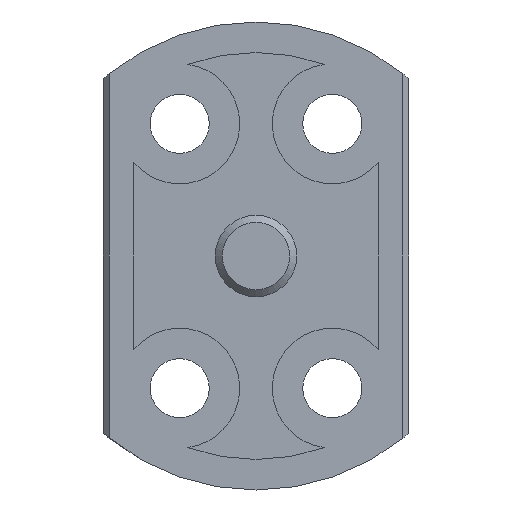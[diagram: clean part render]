
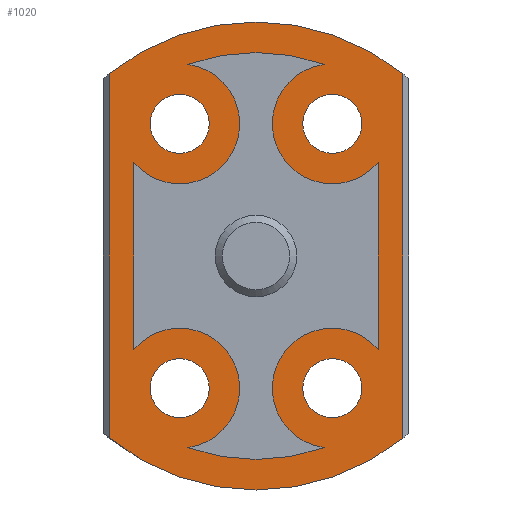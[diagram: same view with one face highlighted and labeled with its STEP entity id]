
A CAD part, left-side view. The second image highlights one B-rep face of the part: STEP entity #1020.
In plain terms, the highlighted planar face has unit normal (-1, 0, 0).
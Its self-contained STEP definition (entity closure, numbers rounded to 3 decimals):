
#238=CARTESIAN_POINT('',(100.0,-7.2,-8.967));
#239=VERTEX_POINT('',#238);
#257=CARTESIAN_POINT('',(100.0,-7.2,8.967));
#258=VERTEX_POINT('',#257);
#266=CARTESIAN_POINT('',(100.0,-7.2,8.967));
#267=DIRECTION('',(0.0,0.0,-1.0));
#268=VECTOR('',#267,17.934);
#269=LINE('',#266,#268);
#270=EDGE_CURVE('',#258,#239,#269,.T.);
#312=CARTESIAN_POINT('',(100.0,7.2,-8.967));
#313=VERTEX_POINT('',#312);
#314=CARTESIAN_POINT('',(100.0,0.0,0.0));
#315=DIRECTION('',(1.0,0.0,0.0));
#316=DIRECTION('',(0.0,1.0,0.0));
#317=AXIS2_PLACEMENT_3D('',#314,#315,#316);
#318=CIRCLE('',#317,11.5);
#319=EDGE_CURVE('',#239,#313,#318,.T.);
#372=CARTESIAN_POINT('',(100.0,7.2,8.967));
#373=VERTEX_POINT('',#372);
#390=CARTESIAN_POINT('',(100.0,7.2,-8.967));
#391=DIRECTION('',(0.0,0.0,1.0));
#392=VECTOR('',#391,17.934);
#393=LINE('',#390,#392);
#394=EDGE_CURVE('',#313,#373,#393,.T.);
#457=CARTESIAN_POINT('',(100.0,0.0,0.0));
#458=DIRECTION('',(1.0,0.0,0.0));
#459=DIRECTION('',(0.0,1.0,0.0));
#460=AXIS2_PLACEMENT_3D('',#457,#458,#459);
#461=CIRCLE('',#460,11.5);
#462=EDGE_CURVE('',#373,#258,#461,.T.);
#573=CARTESIAN_POINT('',(100.0,-3.359,-9.419));
#574=VERTEX_POINT('',#573);
#583=CARTESIAN_POINT('',(100.0,-6.,-4.587));
#584=VERTEX_POINT('',#583);
#585=CARTESIAN_POINT('',(100.0,-3.75,-6.495));
#586=DIRECTION('',(-1.0,0.0,0.0));
#587=DIRECTION('',(0.0,1.0,0.0));
#588=AXIS2_PLACEMENT_3D('',#585,#586,#587);
#589=CIRCLE('',#588,2.95);
#590=EDGE_CURVE('',#584,#574,#589,.T.);
#615=CARTESIAN_POINT('',(100.0,-6.,4.587));
#616=VERTEX_POINT('',#615);
#625=CARTESIAN_POINT('',(100.0,-3.359,9.419));
#626=VERTEX_POINT('',#625);
#627=CARTESIAN_POINT('',(100.0,-3.75,6.495));
#628=DIRECTION('',(-1.0,0.0,0.0));
#629=DIRECTION('',(0.0,1.0,0.0));
#630=AXIS2_PLACEMENT_3D('',#627,#628,#629);
#631=CIRCLE('',#630,2.95);
#632=EDGE_CURVE('',#626,#616,#631,.T.);
#658=CARTESIAN_POINT('',(100.0,3.359,9.419));
#659=VERTEX_POINT('',#658);
#660=CARTESIAN_POINT('',(100.0,0.0,0.0));
#661=DIRECTION('',(1.0,0.0,0.0));
#662=DIRECTION('',(0.0,1.0,0.0));
#663=AXIS2_PLACEMENT_3D('',#660,#661,#662);
#664=CIRCLE('',#663,10.0);
#665=EDGE_CURVE('',#659,#626,#664,.T.);
#692=CARTESIAN_POINT('',(100.0,6.,4.587));
#693=VERTEX_POINT('',#692);
#708=CARTESIAN_POINT('',(100.0,3.75,6.495));
#709=DIRECTION('',(-1.0,0.0,0.0));
#710=DIRECTION('',(0.0,1.0,0.0));
#711=AXIS2_PLACEMENT_3D('',#708,#709,#710);
#712=CIRCLE('',#711,2.95);
#713=EDGE_CURVE('',#693,#659,#712,.T.);
#724=CARTESIAN_POINT('',(100.0,6.,-4.587));
#725=VERTEX_POINT('',#724);
#726=CARTESIAN_POINT('',(100.0,6.,-4.587));
#727=DIRECTION('',(0.0,0.0,1.0));
#728=VECTOR('',#727,9.175);
#729=LINE('',#726,#728);
#730=EDGE_CURVE('',#725,#693,#729,.T.);
#755=CARTESIAN_POINT('',(100.0,3.359,-9.419));
#756=VERTEX_POINT('',#755);
#757=CARTESIAN_POINT('',(100.0,3.75,-6.495));
#758=DIRECTION('',(-1.0,0.0,0.0));
#759=DIRECTION('',(0.0,1.0,0.0));
#760=AXIS2_PLACEMENT_3D('',#757,#758,#759);
#761=CIRCLE('',#760,2.95);
#762=EDGE_CURVE('',#756,#725,#761,.T.);
#788=CARTESIAN_POINT('',(100.0,-6.,4.587));
#789=DIRECTION('',(0.0,0.0,-1.0));
#790=VECTOR('',#789,9.175);
#791=LINE('',#788,#790);
#792=EDGE_CURVE('',#616,#584,#791,.T.);
#845=CARTESIAN_POINT('',(100.0,0.0,0.0));
#846=DIRECTION('',(1.0,0.0,0.0));
#847=DIRECTION('',(0.0,1.0,0.0));
#848=AXIS2_PLACEMENT_3D('',#845,#846,#847);
#849=CIRCLE('',#848,10.0);
#850=EDGE_CURVE('',#574,#756,#849,.T.);
#863=CARTESIAN_POINT('',(100.0,5.2,-6.495));
#864=VERTEX_POINT('',#863);
#865=CARTESIAN_POINT('',(100.0,3.75,-6.495));
#866=DIRECTION('',(1.0,0.0,0.0));
#867=DIRECTION('',(0.0,1.0,0.0));
#868=AXIS2_PLACEMENT_3D('',#865,#866,#867);
#869=CIRCLE('',#868,1.45);
#870=EDGE_CURVE('',#864,#864,#869,.T.);
#883=CARTESIAN_POINT('',(100.0,5.2,6.495));
#884=VERTEX_POINT('',#883);
#885=CARTESIAN_POINT('',(100.0,3.75,6.495));
#886=DIRECTION('',(1.0,0.0,0.0));
#887=DIRECTION('',(0.0,1.0,0.0));
#888=AXIS2_PLACEMENT_3D('',#885,#886,#887);
#889=CIRCLE('',#888,1.45);
#890=EDGE_CURVE('',#884,#884,#889,.T.);
#903=CARTESIAN_POINT('',(100.0,-2.3,6.495));
#904=VERTEX_POINT('',#903);
#905=CARTESIAN_POINT('',(100.0,-3.75,6.495));
#906=DIRECTION('',(1.0,0.0,0.0));
#907=DIRECTION('',(0.0,1.0,0.0));
#908=AXIS2_PLACEMENT_3D('',#905,#906,#907);
#909=CIRCLE('',#908,1.45);
#910=EDGE_CURVE('',#904,#904,#909,.T.);
#923=CARTESIAN_POINT('',(100.0,-2.3,-6.495));
#924=VERTEX_POINT('',#923);
#925=CARTESIAN_POINT('',(100.0,-3.75,-6.495));
#926=DIRECTION('',(1.0,0.0,0.0));
#927=DIRECTION('',(0.0,1.0,0.0));
#928=AXIS2_PLACEMENT_3D('',#925,#926,#927);
#929=CIRCLE('',#928,1.45);
#930=EDGE_CURVE('',#924,#924,#929,.T.);
#987=CARTESIAN_POINT('',(100.0,0.0,0.0));
#988=DIRECTION('',(-1.0,0.0,0.0));
#989=DIRECTION('',(0.0,0.0,1.0));
#990=AXIS2_PLACEMENT_3D('',#987,#988,#989);
#991=PLANE('',#990);
#992=ORIENTED_EDGE('',*,*,#270,.F.);
#993=ORIENTED_EDGE('',*,*,#462,.F.);
#994=ORIENTED_EDGE('',*,*,#394,.F.);
#995=ORIENTED_EDGE('',*,*,#319,.F.);
#996=EDGE_LOOP('',(#992,#993,#994,#995));
#997=FACE_OUTER_BOUND('',#996,.T.);
#998=ORIENTED_EDGE('',*,*,#590,.T.);
#999=ORIENTED_EDGE('',*,*,#850,.T.);
#1000=ORIENTED_EDGE('',*,*,#762,.T.);
#1001=ORIENTED_EDGE('',*,*,#730,.T.);
#1002=ORIENTED_EDGE('',*,*,#713,.T.);
#1003=ORIENTED_EDGE('',*,*,#665,.T.);
#1004=ORIENTED_EDGE('',*,*,#632,.T.);
#1005=ORIENTED_EDGE('',*,*,#792,.T.);
#1006=EDGE_LOOP('',(#998,#999,#1000,#1001,#1002,#1003,#1004,#1005));
#1007=FACE_BOUND('',#1006,.T.);
#1008=ORIENTED_EDGE('',*,*,#870,.T.);
#1009=EDGE_LOOP('',(#1008));
#1010=FACE_BOUND('',#1009,.T.);
#1011=ORIENTED_EDGE('',*,*,#890,.T.);
#1012=EDGE_LOOP('',(#1011));
#1013=FACE_BOUND('',#1012,.T.);
#1014=ORIENTED_EDGE('',*,*,#910,.T.);
#1015=EDGE_LOOP('',(#1014));
#1016=FACE_BOUND('',#1015,.T.);
#1017=ORIENTED_EDGE('',*,*,#930,.T.);
#1018=EDGE_LOOP('',(#1017));
#1019=FACE_BOUND('',#1018,.T.);
#1020=ADVANCED_FACE('',(#997,#1007,#1010,#1013,#1016,#1019),#991,.T.);
